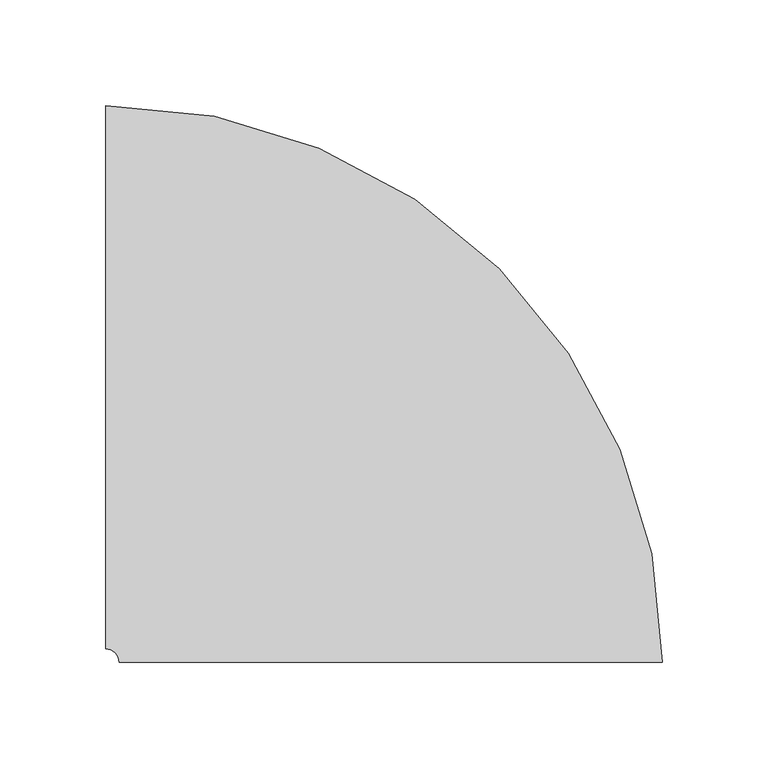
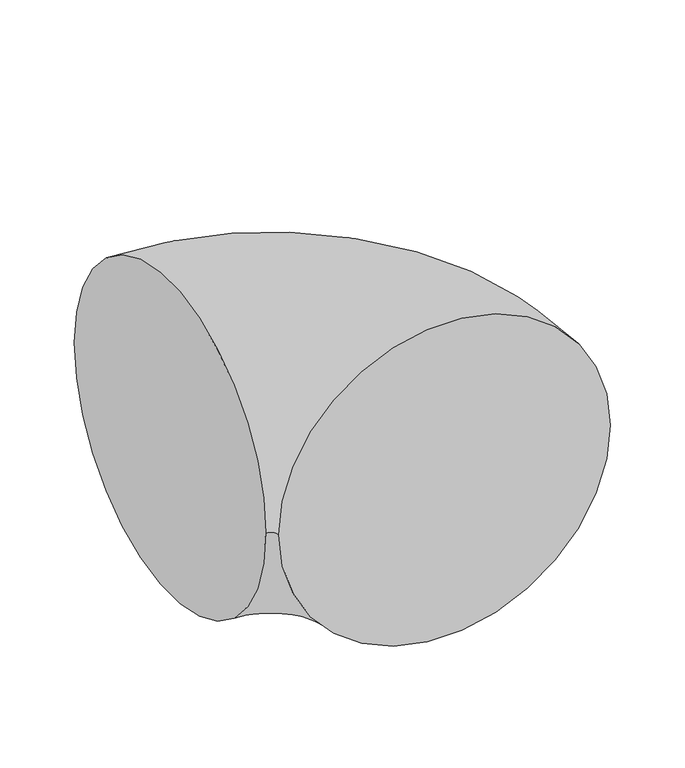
"""IFC4 building model written with IfcOpenShell, lengths in millimetres: pipe fitting geometry, M_Codo - Genérico : Estándar."""

from ifc_helpers import new_model, si_unit, point, frame, origin, place, context, project, spatial, circle_curve, ellipse_curve, trimmed, source, transform, mapped, element, save
from ifc_brep_helpers import plane_surface, revolved_surface, advanced_brep


def pipe_fitting_e24ca710(model_context):
    return source(origin(), model_context, "Body", "AdvancedBrep", [
        advanced_brep(
        [(-134.9375, 128.5875, 0.0), (-134.9375, -128.5875, 0.0), (128.5875, -134.9375, 0.0), (-128.5875, -134.9375, 0.0)],
        [
            (0, 1, circle_curve(frame((-134.9375, 0.0, 0.0), z_axis=(-1.0, 0.0, 0.0), x_axis=(0.0, -1.0, 0.0)), 128.5875)),
            (1, 0, circle_curve(frame((-134.9375, 0.0, 0.0), z_axis=(-1.0, 0.0, 0.0), x_axis=(0.0, -1.0, 0.0)), 128.5875)),
            (2, 3, circle_curve(frame((0.0, -134.9375, 0.0), z_axis=(0.0, -1.0, 0.0), x_axis=(-1.0, 0.0, 0.0)), 128.5875)),
            (3, 2, circle_curve(frame((0.0, -134.9375, 0.0), z_axis=(0.0, -1.0, 0.0), x_axis=(-1.0, 0.0, 0.0)), 128.5875)),
            (2, 0, circle_curve(frame((-134.9375, -134.9375, 0.0), z_axis=(0.0, 0.0, 1.0), x_axis=(0.0, 1.0, 0.0)), 263.525)),
            (1, 3, circle_curve(frame((-134.9375, -134.9375, 0.0), z_axis=(0.0, 0.0, -1.0), x_axis=(0.0, 1.0, 0.0)), 6.35)),
        ],
        [
            plane_surface(frame((-134.9375, 0.0, 0.0), z_axis=(-1.0, 0.0, 0.0), x_axis=(0.0, 0.0, 1.0))),
            plane_surface(frame((0.0, -134.9375, 0.0), z_axis=(0.0, -1.0, 0.0), x_axis=(0.0, 0.0, 1.0))),
            revolved_surface(trimmed(ellipse_curve(frame((-134.9375, 0.0, 0.0), z_axis=(1.0, 0.0, 0.0), x_axis=(0.0, -1.0, 0.0)), 128.5875, 128.5875), [point((-134.9375, 128.5875, 0.0))], [point((-134.9375, -128.5875, 0.0))], True, "CARTESIAN"), (-134.9375, -134.9375, 0.0), (0.0, 0.0, 1.0)),
            revolved_surface(trimmed(ellipse_curve(frame((-134.9375, 0.0, 0.0), z_axis=(1.0, 0.0, 0.0), x_axis=(0.0, -1.0, 0.0)), 128.5875, 128.5875), [point((-134.9375, -128.5875, 0.0))], [point((-134.9375, 128.5875, 0.0))], True, "CARTESIAN"), (-134.9375, -134.9375, 0.0), (0.0, 0.0, 1.0)),
        ],
        [
            (0, [[1, 2]]),
            (1, [[3, 4]]),
            (2, [[-3, 5, -2, 6]]),
            (3, [[-4, -6, -1, -5]]),
        ],
    ),
    ])


if __name__ == "__main__":
    model = new_model("IFC4")
    model_context = context("Model", 3, world=origin())
    ifc_project = project(units=[si_unit("LENGTHUNIT", "METRE", prefix="MILLI")], contexts=[model_context])
    site = spatial("IfcSite", under=ifc_project)
    building = spatial("IfcBuilding", under=site)
    placement = place(None, origin())
    pipe_fitting_shape = pipe_fitting_e24ca710(model_context)
    element("IfcPipeFitting", 1, ObjectType="M_Codo - Genérico : Estándar", at=placement, inside=building, context=model_context, shape_type="MappedRepresentation", body=[
        mapped(pipe_fitting_shape, transform((0.0, 0.0, 0.0), x_axis=(1.0, 0.0, 0.0), y_axis=(0.0, 1.0, 0.0), z_axis=(0.0, 0.0, 1.0))),
    ])
    save(model, "model.ifc")
